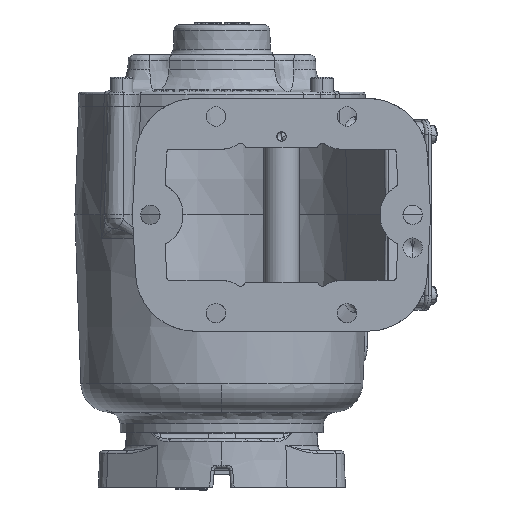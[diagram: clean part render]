
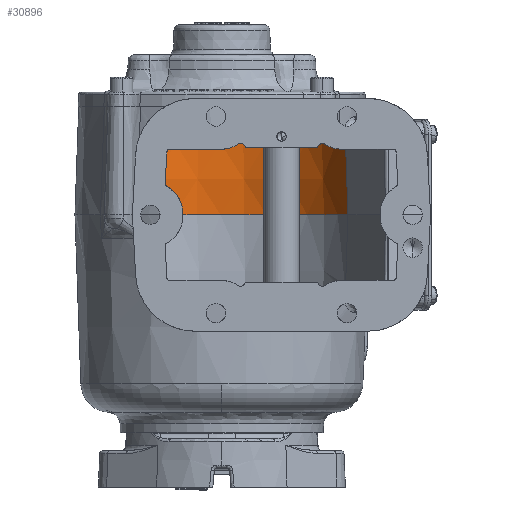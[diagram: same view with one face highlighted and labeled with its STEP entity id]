
A CAD part, front view. The second image highlights one B-rep face of the part: STEP entity #30896.
In plain terms, the highlighted conical face has half-angle 2 degrees and reference radius 71.882 mm.
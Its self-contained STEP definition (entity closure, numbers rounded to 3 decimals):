
#5489 = CARTESIAN_POINT ( 'NONE',  ( -31.75, 84.572, 0. ) ) ;
#6140 = DIRECTION ( 'NONE',  ( 0., 0., -1. ) ) ;
#6403 = VERTEX_POINT ( 'NONE', #112071 ) ;
#9207 = LINE ( 'NONE', #59840, #79563 ) ;
#14650 = VERTEX_POINT ( 'NONE', #114216 ) ;
#15064 = ORIENTED_EDGE ( 'NONE', *, *, #29177, .F. ) ;
#18195 = LINE ( 'NONE', #58836, #109551 ) ;
#22438 = CARTESIAN_POINT ( 'NONE',  ( -31.75, 84.572, 38.1 ) ) ;
#23572 = AXIS2_PLACEMENT_3D ( 'NONE', #36394, #107659, #98988 ) ;
#26128 = DIRECTION ( 'NONE',  ( 0.934, 0.358, 0. ) ) ;
#28370 = FACE_OUTER_BOUND ( 'NONE', #32069, .T. ) ;
#29177 = EDGE_CURVE ( 'NONE', #31178, #6403, #95973, .T. ) ;
#30896 = ADVANCED_FACE ( 'NONE', ( #28370 ), #36652, .F. ) ;
#31178 = VERTEX_POINT ( 'NONE', #48865 ) ;
#32069 = EDGE_LOOP ( 'NONE', ( #15064, #110235, #109252, #122572 ) ) ;
#36394 = CARTESIAN_POINT ( 'NONE',  ( -31.75, 84.572, 0. ) ) ;
#36652 = CONICAL_SURFACE ( 'NONE', #23572, 71.882, 0.035 ) ;
#48865 = CARTESIAN_POINT ( 'NONE',  ( -102.302, 84.572, 38.1 ) ) ;
#53716 = DIRECTION ( 'NONE',  ( -1., 0., 0. ) ) ;
#57508 = EDGE_CURVE ( 'NONE', #31178, #14650, #9207, .T. ) ;
#58836 = CARTESIAN_POINT ( 'NONE',  ( 34.737, 110.094, 19.05 ) ) ;
#59840 = CARTESIAN_POINT ( 'NONE',  ( -103.632, 84.572, 0. ) ) ;
#66205 = AXIS2_PLACEMENT_3D ( 'NONE', #22438, #93071, #53716 ) ;
#66379 = CIRCLE ( 'NONE', #123806, 71.882 ) ;
#71829 = DIRECTION ( 'NONE',  ( -0.035, 0., -0.999 ) ) ;
#79563 = VECTOR ( 'NONE', #71829, 1000. ) ;
#84152 = VERTEX_POINT ( 'NONE', #112191 ) ;
#86348 = EDGE_CURVE ( 'NONE', #6403, #84152, #18195, .T. ) ;
#93071 = DIRECTION ( 'NONE',  ( 0., 0., -1. ) ) ;
#95973 = CIRCLE ( 'NONE', #66205, 70.552 ) ;
#98988 = DIRECTION ( 'NONE',  ( -1., 0., 0. ) ) ;
#99444 = DIRECTION ( 'NONE',  ( 0.033, 0.013, -0.999 ) ) ;
#107659 = DIRECTION ( 'NONE',  ( 0., 0., -1. ) ) ;
#109252 = ORIENTED_EDGE ( 'NONE', *, *, #121847, .T. ) ;
#109551 = VECTOR ( 'NONE', #99444, 1000. ) ;
#110235 = ORIENTED_EDGE ( 'NONE', *, *, #57508, .T. ) ;
#112071 = CARTESIAN_POINT ( 'NONE',  ( 34.116, 109.855, 38.1 ) ) ;
#112191 = CARTESIAN_POINT ( 'NONE',  ( 35.358, 110.332, 0. ) ) ;
#114216 = CARTESIAN_POINT ( 'NONE',  ( -103.632, 84.572, 0. ) ) ;
#121847 = EDGE_CURVE ( 'NONE', #14650, #84152, #66379, .T. ) ;
#122572 = ORIENTED_EDGE ( 'NONE', *, *, #86348, .F. ) ;
#123806 = AXIS2_PLACEMENT_3D ( 'NONE', #5489, #6140, #26128 ) ;
